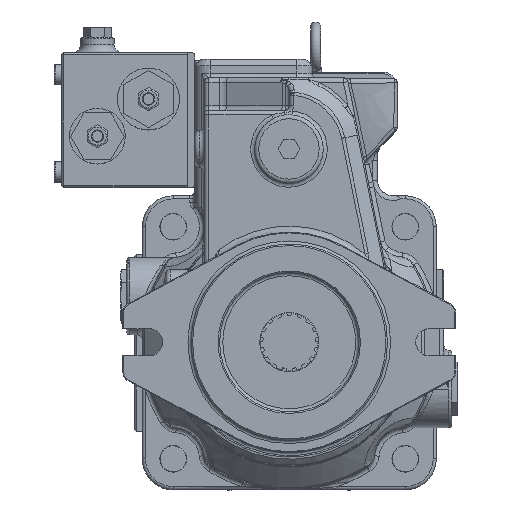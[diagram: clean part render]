
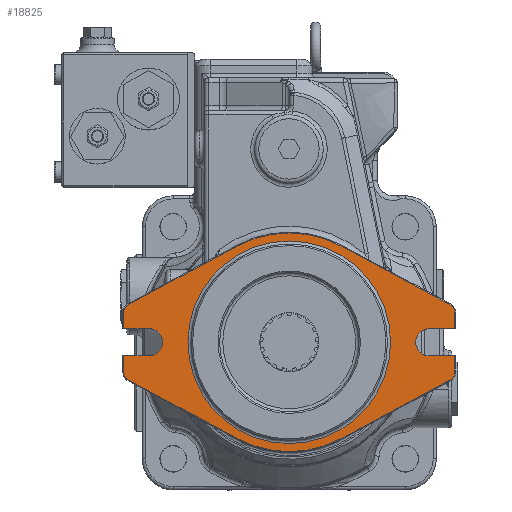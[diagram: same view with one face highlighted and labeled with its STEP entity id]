
A CAD part, top view. The second image highlights one B-rep face of the part: STEP entity #18825.
In plain terms, the highlighted planar face has unit normal (0, 0, 1).
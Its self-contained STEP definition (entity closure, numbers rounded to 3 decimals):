
#809=FACE_BOUND('',#3543,.T.);
#2195=FACE_OUTER_BOUND('',#3542,.T.);
#3542=EDGE_LOOP('',(#14069,#14070,#14071,#14072,#14073,#14074,#14075,#14076,
#14077,#14078,#14079,#14080,#14081,#14082,#14083,#14084,#14085,#14086,#14087,
#14088));
#3543=EDGE_LOOP('',(#14089));
#4796=LINE('',#30491,#5851);
#4824=LINE('',#30563,#5879);
#4836=LINE('',#30595,#5891);
#4846=LINE('',#30618,#5901);
#4849=LINE('',#30626,#5904);
#4852=LINE('',#30636,#5907);
#4855=LINE('',#30643,#5910);
#4857=LINE('',#30648,#5912);
#4862=LINE('',#30660,#5917);
#4864=LINE('',#30664,#5919);
#4867=LINE('',#30674,#5922);
#4868=LINE('',#30676,#5923);
#5851=VECTOR('',#24073,16.5);
#5879=VECTOR('',#24141,16.5);
#5891=VECTOR('',#24171,16.5);
#5901=VECTOR('',#24195,10.48);
#5904=VECTOR('',#24204,79.948);
#5907=VECTOR('',#24215,79.948);
#5910=VECTOR('',#24224,10.48);
#5912=VECTOR('',#24230,16.5);
#5917=VECTOR('',#24243,79.948);
#5919=VECTOR('',#24247,79.948);
#5922=VECTOR('',#24260,10.48);
#5923=VECTOR('',#24263,10.48);
#6755=CIRCLE('',#20468,5.935);
#6756=CIRCLE('',#20471,70.683);
#6758=CIRCLE('',#20475,5.935);
#6759=CIRCLE('',#20480,70.683);
#6761=CIRCLE('',#20485,5.935);
#6762=CIRCLE('',#20487,5.935);
#6809=CIRCLE('',#20548,65.488);
#6810=CIRCLE('',#20550,8.75);
#6811=CIRCLE('',#20551,8.75);
#8068=VERTEX_POINT('',#30488);
#8069=VERTEX_POINT('',#30490);
#8092=VERTEX_POINT('',#30560);
#8093=VERTEX_POINT('',#30562);
#8103=VERTEX_POINT('',#30592);
#8104=VERTEX_POINT('',#30594);
#8109=VERTEX_POINT('',#30614);
#8110=VERTEX_POINT('',#30616);
#8111=VERTEX_POINT('',#30620);
#8112=VERTEX_POINT('',#30624);
#8114=VERTEX_POINT('',#30629);
#8115=VERTEX_POINT('',#30634);
#8116=VERTEX_POINT('',#30639);
#8117=VERTEX_POINT('',#30647);
#8118=VERTEX_POINT('',#30651);
#8119=VERTEX_POINT('',#30653);
#8120=VERTEX_POINT('',#30658);
#8121=VERTEX_POINT('',#30662);
#8122=VERTEX_POINT('',#30666);
#8123=VERTEX_POINT('',#30670);
#8206=VERTEX_POINT('',#30859);
#10110=EDGE_CURVE('',#8068,#8069,#4796,.T.);
#10146=EDGE_CURVE('',#8092,#8093,#4824,.T.);
#10162=EDGE_CURVE('',#8103,#8104,#4836,.T.);
#10174=EDGE_CURVE('',#8110,#8109,#4846,.T.);
#10176=EDGE_CURVE('',#8111,#8110,#6755,.T.);
#10178=EDGE_CURVE('',#8112,#8111,#4849,.T.);
#10180=EDGE_CURVE('',#8114,#8112,#6756,.T.);
#10183=EDGE_CURVE('',#8115,#8114,#4852,.T.);
#10186=EDGE_CURVE('',#8116,#8115,#6758,.T.);
#10187=EDGE_CURVE('',#8093,#8116,#4855,.T.);
#10189=EDGE_CURVE('',#8109,#8117,#4857,.T.);
#10192=EDGE_CURVE('',#8118,#8119,#6759,.T.);
#10196=EDGE_CURVE('',#8120,#8118,#4862,.T.);
#10198=EDGE_CURVE('',#8119,#8121,#4864,.T.);
#10200=EDGE_CURVE('',#8122,#8120,#6761,.T.);
#10202=EDGE_CURVE('',#8121,#8123,#6762,.T.);
#10203=EDGE_CURVE('',#8069,#8122,#4867,.T.);
#10204=EDGE_CURVE('',#8123,#8103,#4868,.T.);
#10289=EDGE_CURVE('',#8206,#8206,#6809,.T.);
#10290=EDGE_CURVE('',#8104,#8092,#6810,.T.);
#10291=EDGE_CURVE('',#8117,#8068,#6811,.T.);
#14069=ORIENTED_EDGE('',*,*,#10187,.F.);
#14070=ORIENTED_EDGE('',*,*,#10146,.F.);
#14071=ORIENTED_EDGE('',*,*,#10290,.F.);
#14072=ORIENTED_EDGE('',*,*,#10162,.F.);
#14073=ORIENTED_EDGE('',*,*,#10204,.F.);
#14074=ORIENTED_EDGE('',*,*,#10202,.F.);
#14075=ORIENTED_EDGE('',*,*,#10198,.F.);
#14076=ORIENTED_EDGE('',*,*,#10192,.F.);
#14077=ORIENTED_EDGE('',*,*,#10196,.F.);
#14078=ORIENTED_EDGE('',*,*,#10200,.F.);
#14079=ORIENTED_EDGE('',*,*,#10203,.F.);
#14080=ORIENTED_EDGE('',*,*,#10110,.F.);
#14081=ORIENTED_EDGE('',*,*,#10291,.F.);
#14082=ORIENTED_EDGE('',*,*,#10189,.F.);
#14083=ORIENTED_EDGE('',*,*,#10174,.F.);
#14084=ORIENTED_EDGE('',*,*,#10176,.F.);
#14085=ORIENTED_EDGE('',*,*,#10178,.F.);
#14086=ORIENTED_EDGE('',*,*,#10180,.F.);
#14087=ORIENTED_EDGE('',*,*,#10183,.F.);
#14088=ORIENTED_EDGE('',*,*,#10186,.F.);
#14089=ORIENTED_EDGE('',*,*,#10289,.F.);
#16848=PLANE('',#20549);
#18825=ADVANCED_FACE('',(#2195,#809),#16848,.T.);
#20468=AXIS2_PLACEMENT_3D('',#30622,#24199,#24200);
#20471=AXIS2_PLACEMENT_3D('',#30631,#24208,#24209);
#20475=AXIS2_PLACEMENT_3D('',#30641,#24220,#24221);
#20480=AXIS2_PLACEMENT_3D('',#30654,#24235,#24236);
#20485=AXIS2_PLACEMENT_3D('',#30668,#24251,#24252);
#20487=AXIS2_PLACEMENT_3D('',#30672,#24256,#24257);
#20548=AXIS2_PLACEMENT_3D('',#30860,#24416,#24417);
#20549=AXIS2_PLACEMENT_3D('',#30861,#24418,#24419);
#20550=AXIS2_PLACEMENT_3D('',#30862,#24420,#24421);
#20551=AXIS2_PLACEMENT_3D('',#30863,#24422,#24423);
#24073=DIRECTION('',(-1.,0.,0.));
#24141=DIRECTION('',(1.,0.,0.));
#24171=DIRECTION('',(-1.,0.,0.));
#24195=DIRECTION('',(0.,1.,0.));
#24199=DIRECTION('center_axis',(0.,0.,
-1.));
#24200=DIRECTION('ref_axis',(-0.473,-0.881,0.));
#24204=DIRECTION('',(-0.881,0.473,0.));
#24208=DIRECTION('center_axis',(0.,0.,
-1.));
#24209=DIRECTION('ref_axis',(0.473,-0.881,0.));
#24215=DIRECTION('',(-0.881,-0.473,0.));
#24220=DIRECTION('center_axis',(0.,0.,
-1.));
#24221=DIRECTION('ref_axis',(1.,0.,0.));
#24224=DIRECTION('',(0.,-1.,0.));
#24230=DIRECTION('',(1.,0.,0.));
#24235=DIRECTION('center_axis',(0.,0.,
-1.));
#24236=DIRECTION('ref_axis',(-0.473,0.881,0.));
#24243=DIRECTION('',(0.881,0.473,0.));
#24247=DIRECTION('',(0.881,-0.473,0.));
#24251=DIRECTION('center_axis',(0.,0.,
-1.));
#24252=DIRECTION('ref_axis',(-1.,0.,0.));
#24256=DIRECTION('center_axis',(0.,0.,
-1.));
#24257=DIRECTION('ref_axis',(0.473,0.881,0.));
#24260=DIRECTION('',(0.,1.,0.));
#24263=DIRECTION('',(0.,-1.,0.));
#24416=DIRECTION('center_axis',(0.,0.,
1.));
#24417=DIRECTION('ref_axis',(-1.,0.,0.));
#24418=DIRECTION('center_axis',(0.,0.,
1.));
#24419=DIRECTION('ref_axis',(1.,0.,0.));
#24420=DIRECTION('center_axis',(0.,0.,
1.));
#24421=DIRECTION('ref_axis',(0.,1.,0.));
#24422=DIRECTION('center_axis',(0.,0.,
1.));
#24423=DIRECTION('ref_axis',(0.,-1.,0.));
#30488=CARTESIAN_POINT('',(-90.5,8.75,25.296));
#30490=CARTESIAN_POINT('',(-107.,8.75,25.296));
#30491=CARTESIAN_POINT('',(-90.5,8.75,25.296));
#30560=CARTESIAN_POINT('',(90.5,-8.75,25.296));
#30562=CARTESIAN_POINT('',(107.,-8.75,25.296));
#30563=CARTESIAN_POINT('',(90.5,-8.75,25.296));
#30592=CARTESIAN_POINT('',(107.,8.75,25.296));
#30594=CARTESIAN_POINT('',(90.5,8.75,25.296));
#30595=CARTESIAN_POINT('',(107.5,8.75,25.296));
#30614=CARTESIAN_POINT('',(-107.,-8.75,25.296));
#30616=CARTESIAN_POINT('',(-107.,-19.23,25.296));
#30618=CARTESIAN_POINT('',(-107.,-4.375,25.296));
#30620=CARTESIAN_POINT('',(-103.872,-24.459,25.296));
#30622=CARTESIAN_POINT('Origin',(-101.065,-19.23,25.296));
#30624=CARTESIAN_POINT('',(-33.433,-62.275,25.296));
#30626=CARTESIAN_POINT('',(-68.653,-43.367,25.296));
#30629=CARTESIAN_POINT('',(33.433,-62.275,25.296));
#30631=CARTESIAN_POINT('Origin',(0.,0.,
25.296));
#30634=CARTESIAN_POINT('',(103.872,-24.459,25.296));
#30636=CARTESIAN_POINT('',(33.433,-62.275,25.296));
#30639=CARTESIAN_POINT('',(107.,-19.23,25.296));
#30641=CARTESIAN_POINT('Origin',(101.065,-19.23,25.296));
#30643=CARTESIAN_POINT('',(107.,-9.615,25.296));
#30647=CARTESIAN_POINT('',(-90.5,-8.75,25.296));
#30648=CARTESIAN_POINT('',(-107.5,-8.75,25.296));
#30651=CARTESIAN_POINT('',(-33.433,62.275,25.296));
#30653=CARTESIAN_POINT('',(33.433,62.275,25.296));
#30654=CARTESIAN_POINT('Origin',(0.,0.,
25.296));
#30658=CARTESIAN_POINT('',(-103.872,24.459,25.296));
#30660=CARTESIAN_POINT('',(-33.433,62.275,25.296));
#30662=CARTESIAN_POINT('',(103.872,24.459,25.296));
#30664=CARTESIAN_POINT('',(68.653,43.367,25.296));
#30666=CARTESIAN_POINT('',(-107.,19.23,25.296));
#30668=CARTESIAN_POINT('Origin',(-101.065,19.23,25.296));
#30670=CARTESIAN_POINT('',(107.,19.23,25.296));
#30672=CARTESIAN_POINT('Origin',(101.065,19.23,25.296));
#30674=CARTESIAN_POINT('',(-107.,9.615,25.296));
#30676=CARTESIAN_POINT('',(107.,4.375,25.296));
#30859=CARTESIAN_POINT('',(65.487,0.,25.296));
#30860=CARTESIAN_POINT('Origin',(0.,0.,
25.296));
#30861=CARTESIAN_POINT('Origin',(0.,0.,
25.296));
#30862=CARTESIAN_POINT('Origin',(90.5,0.,
25.296));
#30863=CARTESIAN_POINT('Origin',(-90.5,0.,
25.296));
